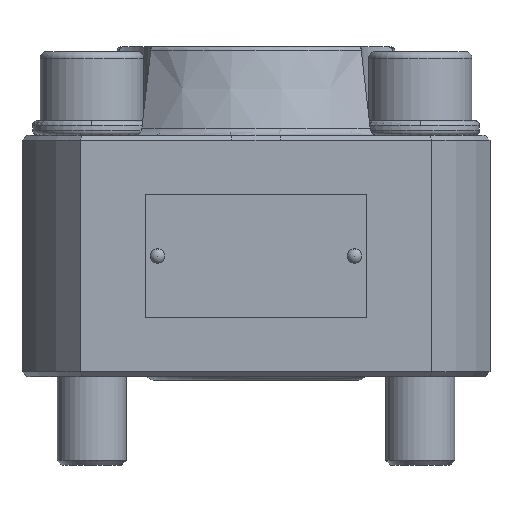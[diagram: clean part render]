
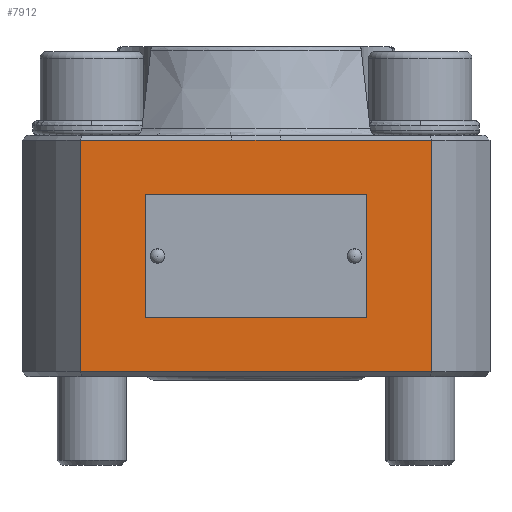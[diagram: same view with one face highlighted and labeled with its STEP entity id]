
A CAD part, left-side view. The second image highlights one B-rep face of the part: STEP entity #7912.
In plain terms, the highlighted planar face has unit normal (-1, 0, 0).
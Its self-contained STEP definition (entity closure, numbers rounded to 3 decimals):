
#244=FACE_BOUND('',#1581,.T.);
#245=FACE_BOUND('',#1582,.T.);
#350=PLANE('',#8583);
#668=B_SPLINE_CURVE_WITH_KNOTS('',3,(#14356,#14357,#14358,#14359,#14360),
 .UNSPECIFIED.,.F.,.F.,(4,1,4),(-2.28,-1.715,-1.291),
 .UNSPECIFIED.);
#1096=FACE_OUTER_BOUND('',#1580,.T.);
#1580=EDGE_LOOP('',(#6047,#6048,#6049,#6050,#6051,#6052));
#1581=EDGE_LOOP('',(#6053));
#1582=EDGE_LOOP('',(#6054));
#2080=CIRCLE('',#8580,1.35);
#2083=CIRCLE('',#8584,1.35);
#2433=LINE('',#14350,#2754);
#2434=LINE('',#14352,#2755);
#2435=LINE('',#14354,#2756);
#2436=LINE('',#14362,#2757);
#2437=LINE('',#14363,#2758);
#2754=VECTOR('',#10000,10.);
#2755=VECTOR('',#10001,10.);
#2756=VECTOR('',#10002,10.);
#2757=VECTOR('',#10003,10.);
#2758=VECTOR('',#10004,10.);
#3326=VERTEX_POINT('',#14340);
#3329=VERTEX_POINT('',#14348);
#3330=VERTEX_POINT('',#14349);
#3331=VERTEX_POINT('',#14351);
#3332=VERTEX_POINT('',#14353);
#3333=VERTEX_POINT('',#14355);
#3334=VERTEX_POINT('',#14361);
#3335=VERTEX_POINT('',#14364);
#4286=EDGE_CURVE('',#3326,#3326,#2080,.T.);
#4290=EDGE_CURVE('',#3329,#3330,#2433,.T.);
#4291=EDGE_CURVE('',#3329,#3331,#2434,.T.);
#4292=EDGE_CURVE('',#3332,#3331,#2435,.T.);
#4293=EDGE_CURVE('',#3333,#3332,#668,.T.);
#4294=EDGE_CURVE('',#3334,#3333,#2436,.T.);
#4295=EDGE_CURVE('',#3330,#3334,#2437,.T.);
#4296=EDGE_CURVE('',#3335,#3335,#2083,.T.);
#6047=ORIENTED_EDGE('',*,*,#4290,.F.);
#6048=ORIENTED_EDGE('',*,*,#4291,.T.);
#6049=ORIENTED_EDGE('',*,*,#4292,.F.);
#6050=ORIENTED_EDGE('',*,*,#4293,.F.);
#6051=ORIENTED_EDGE('',*,*,#4294,.F.);
#6052=ORIENTED_EDGE('',*,*,#4295,.F.);
#6053=ORIENTED_EDGE('',*,*,#4296,.F.);
#6054=ORIENTED_EDGE('',*,*,#4286,.F.);
#7912=ADVANCED_FACE('',(#1096,#244,#245),#350,.T.);
#8580=AXIS2_PLACEMENT_3D('',#14341,#9991,#9992);
#8583=AXIS2_PLACEMENT_3D('',#14347,#9998,#9999);
#8584=AXIS2_PLACEMENT_3D('',#14365,#10005,#10006);
#9991=DIRECTION('center_axis',(-1.,0.,0.));
#9992=DIRECTION('ref_axis',(0.,0.,-1.));
#9998=DIRECTION('center_axis',(-1.,0.,0.));
#9999=DIRECTION('ref_axis',(0.,0.,1.));
#10000=DIRECTION('',(0.,1.,0.));
#10001=DIRECTION('',(0.,0.,1.));
#10002=DIRECTION('',(0.,-1.,0.));
#10003=DIRECTION('',(0.,-1.,0.));
#10004=DIRECTION('',(0.,0.,1.));
#10005=DIRECTION('center_axis',(-1.,0.,0.));
#10006=DIRECTION('ref_axis',(0.,0.,-1.));
#14340=CARTESIAN_POINT('',(-88.795,-42.333,93.236));
#14341=CARTESIAN_POINT('Origin',(-88.795,-42.333,91.886));
#14347=CARTESIAN_POINT('Origin',(-88.795,-58.04,67.386));
#14348=CARTESIAN_POINT('',(-88.795,-58.04,68.386));
#14349=CARTESIAN_POINT('',(-88.795,13.374,68.386));
#14350=CARTESIAN_POINT('',(-88.795,-40.186,68.386));
#14351=CARTESIAN_POINT('',(-88.795,-58.04,115.386));
#14352=CARTESIAN_POINT('',(-88.795,-58.04,67.386));
#14353=CARTESIAN_POINT('',(-88.795,-27.278,115.386));
#14354=CARTESIAN_POINT('',(-88.795,-40.186,115.386));
#14355=CARTESIAN_POINT('',(-88.795,-17.388,115.386));
#14356=CARTESIAN_POINT('Ctrl Pts',(-88.795,-17.388,
115.386));
#14357=CARTESIAN_POINT('Ctrl Pts',(-88.795,-19.272,
115.386));
#14358=CARTESIAN_POINT('Ctrl Pts',(-88.795,-22.568,
115.386));
#14359=CARTESIAN_POINT('Ctrl Pts',(-88.795,-25.865,
115.386));
#14360=CARTESIAN_POINT('Ctrl Pts',(-88.795,-27.278,115.386));
#14361=CARTESIAN_POINT('',(-88.795,13.374,115.386));
#14362=CARTESIAN_POINT('',(-88.795,-40.186,115.386));
#14363=CARTESIAN_POINT('',(-88.795,13.374,67.386));
#14364=CARTESIAN_POINT('',(-88.795,-2.333,93.236));
#14365=CARTESIAN_POINT('Origin',(-88.795,-2.333,91.886));
